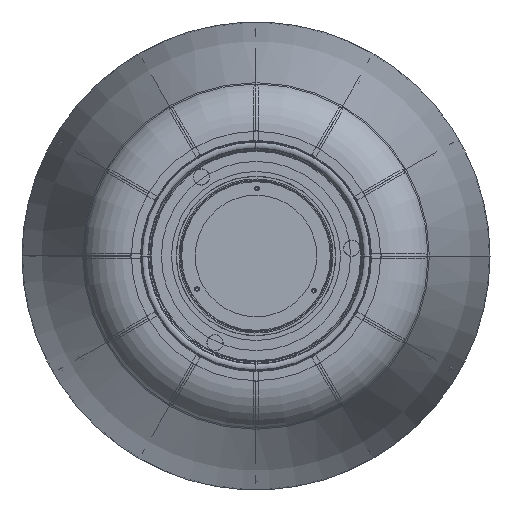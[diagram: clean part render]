
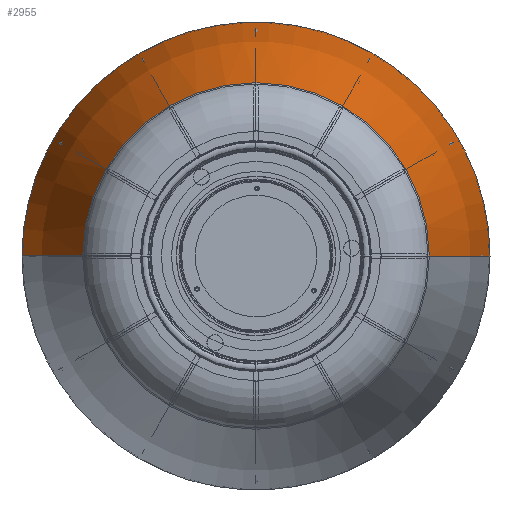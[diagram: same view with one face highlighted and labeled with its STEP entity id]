
A CAD part, front view. The second image highlights one B-rep face of the part: STEP entity #2955.
In plain terms, the highlighted toroidal (fillet/blend) face has major radius 560.553 mm and minor radius 734.875 mm.
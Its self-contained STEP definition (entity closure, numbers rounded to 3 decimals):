
#366 = CARTESIAN_POINT ( 'NONE',  ( -128.206, 14.98, 0. ) ) ;
#1998 = CARTESIAN_POINT ( 'NONE',  ( 560.553, 271.207, 0. ) ) ;
#2284 = AXIS2_PLACEMENT_3D ( 'NONE', #10586, #4551, #22427 ) ;
#2955 = ADVANCED_FACE ( 'NONE', ( #9355 ), #9649, .T. ) ;
#3396 = DIRECTION ( 'NONE',  ( -1., 0., 0. ) ) ;
#3648 = ORIENTED_EDGE ( 'NONE', *, *, #18386, .F. ) ;
#4551 = DIRECTION ( 'NONE',  ( 0., -1., 0. ) ) ;
#4650 = ORIENTED_EDGE ( 'NONE', *, *, #9091, .F. ) ;
#4718 = EDGE_CURVE ( 'NONE', #6828, #9523, #12697, .T. ) ;
#4853 = AXIS2_PLACEMENT_3D ( 'NONE', #1998, #25434, #15775 ) ;
#5484 = DIRECTION ( 'NONE',  ( 0., -1., 0. ) ) ;
#6538 = CARTESIAN_POINT ( 'NONE',  ( 128.206, 14.98, 0. ) ) ;
#6809 = CIRCLE ( 'NONE', #2284, 171.143 ) ;
#6828 = VERTEX_POINT ( 'NONE', #9595 ) ;
#7848 = CIRCLE ( 'NONE', #20260, 734.875 ) ;
#7875 = CIRCLE ( 'NONE', #22279, 128.206 ) ;
#8151 = DIRECTION ( 'NONE',  ( 1., 0., 0. ) ) ;
#8584 = AXIS2_PLACEMENT_3D ( 'NONE', #24924, #5484, #11118 ) ;
#9091 = EDGE_CURVE ( 'NONE', #23478, #13625, #7848, .T. ) ;
#9327 = ORIENTED_EDGE ( 'NONE', *, *, #4718, .T. ) ;
#9355 = FACE_OUTER_BOUND ( 'NONE', #25206, .T. ) ;
#9523 = VERTEX_POINT ( 'NONE', #366 ) ;
#9595 = CARTESIAN_POINT ( 'NONE',  ( -171.143, 339.494, 0. ) ) ;
#9649 = TOROIDAL_SURFACE ( 'NONE', #8584, -560.553, 734.875 ) ;
#10586 = CARTESIAN_POINT ( 'NONE',  ( 0., 339.494, 0. ) ) ;
#11118 = DIRECTION ( 'NONE',  ( 1., 0., 0. ) ) ;
#12697 = CIRCLE ( 'NONE', #4853, 734.875 ) ;
#12864 = CARTESIAN_POINT ( 'NONE',  ( 171.143, 339.494, 0. ) ) ;
#13625 = VERTEX_POINT ( 'NONE', #6538 ) ;
#15775 = DIRECTION ( 'NONE',  ( 1., 0., 0. ) ) ;
#16252 = ORIENTED_EDGE ( 'NONE', *, *, #23840, .T. ) ;
#18386 = EDGE_CURVE ( 'NONE', #13625, #9523, #7875, .T. ) ;
#19929 = DIRECTION ( 'NONE',  ( 0., -1., 0. ) ) ;
#20260 = AXIS2_PLACEMENT_3D ( 'NONE', #21096, #21014, #3396 ) ;
#21014 = DIRECTION ( 'NONE',  ( 0., 0., -1. ) ) ;
#21096 = CARTESIAN_POINT ( 'NONE',  ( -560.553, 271.207, 0. ) ) ;
#22279 = AXIS2_PLACEMENT_3D ( 'NONE', #23953, #19929, #8151 ) ;
#22427 = DIRECTION ( 'NONE',  ( 1., 0., 0. ) ) ;
#23478 = VERTEX_POINT ( 'NONE', #12864 ) ;
#23840 = EDGE_CURVE ( 'NONE', #23478, #6828, #6809, .T. ) ;
#23953 = CARTESIAN_POINT ( 'NONE',  ( 0., 14.98, 0. ) ) ;
#24924 = CARTESIAN_POINT ( 'NONE',  ( 0., 271.207, 0. ) ) ;
#25206 = EDGE_LOOP ( 'NONE', ( #16252, #9327, #3648, #4650 ) ) ;
#25434 = DIRECTION ( 'NONE',  ( 0., 0., 1. ) ) ;
